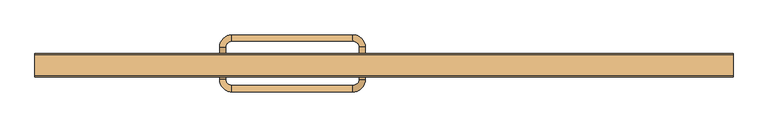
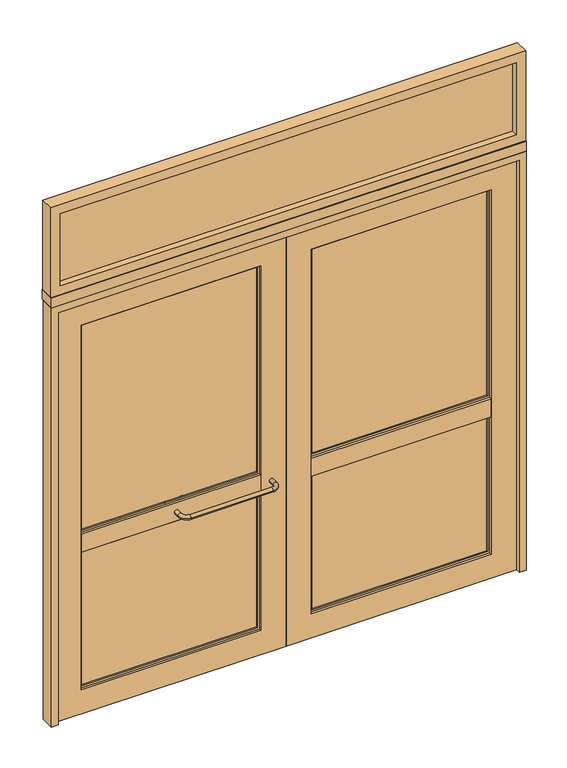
"""IFC4 building model written with IfcOpenShell, lengths in millimetres: door geometry, A1 Puerta batiente doble  VF superior : A1.3 Puerta batiente doble  VF superior 225x260."""

import ifcopenshell
import ifcopenshell.guid

model = None  # the IFC model being written
_history = None  # IfcOwnerHistory: only IFC2X3 demands one
_inside = {}  # id of a spatial element -> (the spatial element, [elements in it])
_under = {}  # id of a project, library or spatial element -> (it, [spatial elements below it])
_declared = {}  # id of a project -> (the project, [libraries it declares])
_typed = {}  # id of a type object -> (the type object, [elements of that type])
_made_of = {}  # id of a material, layer set ... -> (it, [elements and type objects made of it])


def new_model(schema):
    """Start an empty IFC model of exactly this schema.

    Asked for "IFC4X3", IfcOpenShell would pick the latest addendum, in which some entities
    have other attributes; the version numbers below select the first issue.
    IFC2X3 requires an IfcOwnerHistory on every rooted entity: one is made here for all.
    """
    global model, _history
    if schema == "IFC4X3":
        model = ifcopenshell.file(schema_version=(4, 3, 0, 0))
    else:
        model = ifcopenshell.file(schema=schema)
    _inside.clear()
    _under.clear()
    _declared.clear()
    _typed.clear()
    _made_of.clear()
    _history = None
    if model.schema == "IFC2X3":
        org = make("IfcOrganization", Name="unknown")
        user = make(
            "IfcPersonAndOrganization",
            ThePerson=make("IfcPerson", FamilyName="unknown"),
            TheOrganization=org,
        )
        app = make(
            "IfcApplication",
            ApplicationDeveloper=org,
            Version="unknown",
            ApplicationFullName="unknown",
            ApplicationIdentifier="unknown",
        )
        _history = make(
            "IfcOwnerHistory",
            OwningUser=user,
            OwningApplication=app,
            ChangeAction="ADDED",
            CreationDate=0,
        )
    return model


def make(cls, **values):
    """One entity of the class cls with the attributes given. An attribute that is None is left unset."""
    return model.create_entity(
        cls, **{name: value for name, value in values.items() if value is not None}
    )


def rooted(cls, **values):
    """An entity with a GlobalId (a new one), such as an element, a storey or a relation."""
    return make(cls, GlobalId=ifcopenshell.guid.new(), OwnerHistory=_history, **values)


def si_unit(unit_type, name, prefix=None):
    """IfcSIUnit, for example si_unit("LENGTHUNIT", "METRE", prefix="MILLI")."""
    return make("IfcSIUnit", UnitType=unit_type, Prefix=prefix, Name=name)


def assignment(units):
    """IfcUnitAssignment: the units of a project."""
    return None if units is None else make("IfcUnitAssignment", Units=units)


def point(xyz):
    """IfcCartesianPoint."""
    return None if xyz is None else make("IfcCartesianPoint", Coordinates=xyz)


def direction(xyz):
    """IfcDirection."""
    return None if xyz is None else make("IfcDirection", DirectionRatios=xyz)


def frame(location, z_axis=None, x_axis=None):
    """IfcAxis2Placement3D, a coordinate frame: its origin and axes. An axis left out is left unset."""
    return make(
        "IfcAxis2Placement3D",
        Location=point(location),
        Axis=direction(z_axis),
        RefDirection=direction(x_axis),
    )


def origin():
    """The frame at (0, 0, 0) with its axes left unset."""
    return frame((0.0, 0.0, 0.0))


def place(relative_to, where):
    """IfcLocalPlacement: puts the frame where relative to a parent placement (None: the world)."""
    return make(
        "IfcLocalPlacement", PlacementRelTo=relative_to, RelativePlacement=where
    )


def context(
    kind, dimensions, precision=None, world=None, true_north=None, identifier=None
):
    """IfcGeometricRepresentationContext, for example the 3D "Model" context."""
    return make(
        "IfcGeometricRepresentationContext",
        ContextIdentifier=identifier,
        ContextType=kind,
        CoordinateSpaceDimension=dimensions,
        Precision=precision,
        WorldCoordinateSystem=world,
        TrueNorth=true_north,
    )


def project(units=None, contexts=None):
    """IfcProject with its units and contexts."""
    return rooted(
        "IfcProject",
        Name="project",
        RepresentationContexts=contexts,
        UnitsInContext=assignment(units),
    )


def spatial(cls, under=None, at=None, **own):
    """A site, building, storey or space (cls), placed at a placement, below another one or the project."""
    s = rooted(cls, ObjectPlacement=at, **own)
    if under is not None:
        _under.setdefault(under.id(), (under, []))[1].append(s)
    return s


def polyline(points):
    """IfcPolyline through the points."""
    return make("IfcPolyline", Points=[point(p) for p in points])


def circle_curve(where, radius):
    """IfcCircle in the frame where."""
    return make("IfcCircle", Position=where, Radius=radius)


def ellipse_curve(where, semi_axis1, semi_axis2):
    """IfcEllipse in the frame where."""
    return make(
        "IfcEllipse", Position=where, SemiAxis1=semi_axis1, SemiAxis2=semi_axis2
    )


def trimmed(basis, trim1, trim2, sense, master):
    """IfcTrimmedCurve: the piece of a basis curve between two trims."""
    return make(
        "IfcTrimmedCurve",
        BasisCurve=basis,
        Trim1=trim1,
        Trim2=trim2,
        SenseAgreement=sense,
        MasterRepresentation=master,
    )


def outline(outer, holes=None, kind="AREA"):
    """IfcArbitraryClosedProfileDef: a profile drawn as a closed curve; with holes, ...WithVoids."""
    if holes is None:
        return make("IfcArbitraryClosedProfileDef", ProfileType=kind, OuterCurve=outer)
    return make(
        "IfcArbitraryProfileDefWithVoids",
        ProfileType=kind,
        OuterCurve=outer,
        InnerCurves=holes,
    )


def extrude(swept, where, along, depth):
    """IfcExtrudedAreaSolid: the profile swept, set in the frame where, extruded along a direction by depth."""
    return make(
        "IfcExtrudedAreaSolid",
        SweptArea=swept,
        Position=where,
        ExtrudedDirection=direction(along),
        Depth=depth,
    )


def shape(context_of_items, identifier, shape_type, items):
    """IfcShapeRepresentation: the items that make up one representation, for example the "Body"."""
    return make(
        "IfcShapeRepresentation",
        ContextOfItems=context_of_items,
        RepresentationIdentifier=identifier,
        RepresentationType=shape_type,
        Items=items,
    )


def source(mapping_origin, context_of_items, identifier, shape_type, items):
    """IfcRepresentationMap: a shape defined once, which mapped items show again and again."""
    return make(
        "IfcRepresentationMap",
        MappingOrigin=mapping_origin,
        MappedRepresentation=shape(context_of_items, identifier, shape_type, items),
    )


def transform(
    local_origin,
    x_axis=None,
    y_axis=None,
    z_axis=None,
    scale=None,
    scale2=None,
    scale3=None,
    uniform=True,
):
    """IfcCartesianTransformationOperator3D, or its non-uniform kind. x_axis, y_axis, z_axis: its Axis1, 2, 3."""
    if uniform:
        return make(
            "IfcCartesianTransformationOperator3D",
            Axis1=direction(x_axis),
            Axis2=direction(y_axis),
            LocalOrigin=point(local_origin),
            Scale=scale,
            Axis3=direction(z_axis),
        )
    return make(
        "IfcCartesianTransformationOperator3DnonUniform",
        Axis1=direction(x_axis),
        Axis2=direction(y_axis),
        LocalOrigin=point(local_origin),
        Scale=scale,
        Axis3=direction(z_axis),
        Scale2=scale2,
        Scale3=scale3,
    )


def mapped(mapping_source, mapping_target):
    """IfcMappedItem: shows the shape of a source again, moved by a transform."""
    return make(
        "IfcMappedItem", MappingSource=mapping_source, MappingTarget=mapping_target
    )


def made_of(thing, what):
    """Note that an element or type object is made of a material, layer set ...; save() writes the relation."""
    if what is not None:
        _made_of.setdefault(what.id(), (what, []))[1].append(thing)
    return thing


def element(
    cls,
    number,
    at=None,
    inside=None,
    cuts=None,
    type_object=None,
    material=None,
    context=None,
    identifier="Body",
    shape_type=None,
    held_by="IfcProductDefinitionShape",
    body=None,
    shapes=None,
    **own,
):
    """One element of the class cls, such as IfcWall. Its Tag is "e" and its number.

    at: its placement. inside: the storey or other place that contains it. cuts: it is an
    opening in that element (IfcRelVoidsElement). A single representation is given by context,
    identifier, shape_type and body (its items); several are given by shapes. held_by: the class
    of the entity that holds the representations. save() writes the other relations.
    """
    e = rooted(cls, Tag="e%d" % number, ObjectPlacement=at, **own)
    if body is not None:
        shapes = [shape(context, identifier, shape_type, body)]
    if shapes is not None:
        e.Representation = make(held_by, Representations=shapes)
    if inside is not None:
        _inside.setdefault(inside.id(), (inside, []))[1].append(e)
    if cuts is not None:
        rooted(
            "IfcRelVoidsElement", RelatingBuildingElement=cuts, RelatedOpeningElement=e
        )
    if type_object is not None:
        _typed.setdefault(type_object.id(), (type_object, []))[1].append(e)
    return made_of(e, material)


def aggregate(whole, parts):
    """IfcRelAggregates: a whole, such as a stair, and the parts it consists of."""
    return rooted("IfcRelAggregates", RelatingObject=whole, RelatedObjects=parts)


def save(model, path):
    """Write the relations noted so far, then the file.

    IfcRelAggregates (storeys below a building ...), IfcRelContainedInSpatialStructure (elements
    in a storey), IfcRelDefinesByType, IfcRelAssociatesMaterial and IfcRelDeclares: one each for
    every whole, place, type object, material and project.
    """
    for whole, parts in _under.values():
        aggregate(whole, parts)
    for where, things in _inside.values():
        rooted(
            "IfcRelContainedInSpatialStructure",
            RelatedElements=things,
            RelatingStructure=where,
        )
    for kind, things in _typed.values():
        rooted("IfcRelDefinesByType", RelatedObjects=things, RelatingType=kind)
    for what, things in _made_of.values():
        rooted("IfcRelAssociatesMaterial", RelatedObjects=things, RelatingMaterial=what)
    for by, libraries in _declared.values():
        rooted("IfcRelDeclares", RelatingContext=by, RelatedDefinitions=libraries)
    model.write(path)


def plane_surface(at):
    """IfcPlane: the flat surface through the origin of the frame at, square to its z axis."""
    return make("IfcPlane", Position=at)


def cylinder_surface(at, radius):
    """IfcCylindricalSurface: all points at the distance radius from the z axis of the frame at."""
    return make("IfcCylindricalSurface", Position=at, Radius=radius)


def revolved_surface(curve, axis_point, axis_direction):
    """IfcSurfaceOfRevolution: the curve turned about the line through axis_point along axis_direction."""
    return make(
        "IfcSurfaceOfRevolution",
        SweptCurve=make("IfcArbitraryOpenProfileDef", ProfileType="CURVE", Curve=curve),
        AxisPosition=make("IfcAxis1Placement", Location=point(axis_point), Axis=direction(axis_direction)),
    )


def advanced_brep(points, edges, surfaces, faces):
    """IfcAdvancedBrep: a solid bounded by faces that lie on surfaces and meet in shared edges.

    An edge is (start, end): straight between two places in points (the first is 0);
    or (start, end, curve); or (start, end, curve, False) where it runs against its curve.
    A face is (place in surfaces, loops), or (place, loops, False) where it looks against
    its surface's normal. A loop lists edges by number (the first is 1), with a minus sign
    where the edge is run from its end to its start. The first loop is the outer one.
    """
    corners = [point(p) for p in points]
    vertices = [make("IfcVertexPoint", VertexGeometry=c) for c in corners]
    made = []
    for start, end, *more in edges:
        made.append(
            make(
                "IfcEdgeCurve",
                EdgeStart=vertices[start],
                EdgeEnd=vertices[end],
                EdgeGeometry=more[0] if more else make("IfcPolyline", Points=[corners[start], corners[end]]),
                SameSense=more[1] if len(more) > 1 else True,
            )
        )
    hull = []
    for where, loops, *sense in faces:
        bounds = []
        for j, loop in enumerate(loops):
            ring = [make("IfcOrientedEdge", EdgeElement=made[abs(k) - 1], Orientation=k > 0) for k in loop]
            bounds.append(
                make(
                    "IfcFaceOuterBound" if j == 0 else "IfcFaceBound",
                    Bound=make("IfcEdgeLoop", EdgeList=ring),
                    Orientation=True,
                )
            )
        hull.append(make("IfcAdvancedFace", Bounds=bounds, FaceSurface=surfaces[where], SameSense=sense[0] if sense else True))
    return make("IfcAdvancedBrep", Outer=make("IfcClosedShell", CfsFaces=hull))


def door_28f023a7(model_context):
    return source(origin(), model_context, "Body", "SolidModel", [
        advanced_brep(
        [(-80.0, -133.0, 855.0), (-60.0, -133.0, 855.0), (-60.0, -163.0, 855.0), (-80.0, -163.0, 855.0), (-100.0, -183.0, 855.0), (-100.0, -203.0, 855.0), (-490.0, -203.0, 855.0), (-490.0, -183.0, 855.0), (-510.0, -163.0, 855.0), (-530.0, -163.0, 855.0), (-510.0, -133.0, 855.0), (-530.0, -133.0, 855.0)],
        [
            (0, 1, circle_curve(frame((-70.0, -133.0, 855.0), z_axis=(0.0, 1.0, 0.0), x_axis=(1.0, 0.0, 0.0)), 10.0)),
            (1, 0, circle_curve(frame((-70.0, -133.0, 855.0), z_axis=(0.0, 1.0, 0.0), x_axis=(1.0, 0.0, 0.0)), 10.0)),
            (1, 2),
            (2, 3, circle_curve(frame((-70.0, -163.0, 855.0), z_axis=(0.0, 1.0, 0.0), x_axis=(1.0, 0.0, 0.0)), 10.0)),
            (3, 0),
            (3, 2, circle_curve(frame((-70.0, -163.0, 855.0), z_axis=(0.0, 1.0, 0.0), x_axis=(1.0, 0.0, 0.0)), 10.0)),
            (4, 3, circle_curve(frame((-100.0, -163.0, 855.0), z_axis=(0.0, 0.0, 1.0), x_axis=(1.0, 0.0, 0.0)), 20.0)),
            (2, 5, circle_curve(frame((-100.0, -163.0, 855.0), z_axis=(0.0, 0.0, -1.0), x_axis=(1.0, 0.0, 0.0)), 40.0)),
            (5, 4, circle_curve(frame((-100.0, -193.0, 855.0), z_axis=(1.0, 0.0, 0.0), x_axis=(0.0, -1.0, 0.0)), 10.0)),
            (4, 5, circle_curve(frame((-100.0, -193.0, 855.0), z_axis=(1.0, 0.0, 0.0), x_axis=(0.0, -1.0, 0.0)), 10.0)),
            (5, 6),
            (6, 7, circle_curve(frame((-490.0, -193.0, 855.0), z_axis=(1.0, 0.0, 0.0), x_axis=(0.0, -1.0, 0.0)), 10.0)),
            (7, 4),
            (7, 6, circle_curve(frame((-490.0, -193.0, 855.0), z_axis=(1.0, 0.0, 0.0), x_axis=(0.0, -1.0, 0.0)), 10.0)),
            (8, 7, circle_curve(frame((-490.0, -163.0, 855.0), z_axis=(0.0, 0.0, 1.0), x_axis=(0.0, -1.0, 0.0)), 20.0)),
            (6, 9, circle_curve(frame((-490.0, -163.0, 855.0), z_axis=(0.0, 0.0, -1.0), x_axis=(0.0, -1.0, 0.0)), 40.0)),
            (9, 8, circle_curve(frame((-520.0, -163.0, 855.0), z_axis=(0.0, -1.0, 0.0), x_axis=(-1.0, 0.0, 0.0)), 10.0)),
            (8, 9, circle_curve(frame((-520.0, -163.0, 855.0), z_axis=(0.0, -1.0, 0.0), x_axis=(-1.0, 0.0, 0.0)), 10.0)),
            (10, 11, circle_curve(frame((-520.0, -133.0, 855.0), z_axis=(0.0, 1.0, 0.0), x_axis=(-1.0, 0.0, 0.0)), 10.0)),
            (11, 10, circle_curve(frame((-520.0, -133.0, 855.0), z_axis=(0.0, 1.0, 0.0), x_axis=(-1.0, 0.0, 0.0)), 10.0)),
            (9, 11),
            (10, 8),
        ],
        [
            plane_surface(frame((-70.0, -133.0, 855.0), z_axis=(0.0, 1.0, 0.0), x_axis=(0.0, 0.0, 1.0))),
            cylinder_surface(frame((-70.0, -133.0, 855.0), z_axis=(0.0, 1.0, 0.0), x_axis=(1.0, 0.0, 0.0)), 10.0),
            revolved_surface(trimmed(ellipse_curve(frame((-70.0, -163.0, 855.0), z_axis=(0.0, 1.0, 0.0), x_axis=(1.0, 0.0, 0.0)), 10.0, 10.0), [point((-60.0, -163.0, 855.0))], [point((-80.0, -163.0, 855.0))], True, "CARTESIAN"), (-100.0, -163.0, 855.0), (0.0, 0.0, -1.0)),
            revolved_surface(trimmed(ellipse_curve(frame((-70.0, -163.0, 855.0), z_axis=(0.0, 1.0, 0.0), x_axis=(1.0, 0.0, 0.0)), 10.0, 10.0), [point((-80.0, -163.0, 855.0))], [point((-60.0, -163.0, 855.0))], True, "CARTESIAN"), (-100.0, -163.0, 855.0), (0.0, 0.0, -1.0)),
            cylinder_surface(frame((-100.0, -193.0, 855.0), z_axis=(1.0, 0.0, 0.0), x_axis=(0.0, -1.0, 0.0)), 10.0),
            revolved_surface(trimmed(ellipse_curve(frame((-490.0, -193.0, 855.0), z_axis=(1.0, 0.0, 0.0), x_axis=(0.0, -1.0, 0.0)), 10.0, 10.0), [point((-490.0, -203.0, 855.0))], [point((-490.0, -183.0, 855.0))], True, "CARTESIAN"), (-490.0, -163.0, 855.0), (0.0, 0.0, -1.0)),
            revolved_surface(trimmed(ellipse_curve(frame((-490.0, -193.0, 855.0), z_axis=(1.0, 0.0, 0.0), x_axis=(0.0, -1.0, 0.0)), 10.0, 10.0), [point((-490.0, -183.0, 855.0))], [point((-490.0, -203.0, 855.0))], True, "CARTESIAN"), (-490.0, -163.0, 855.0), (0.0, 0.0, -1.0)),
            plane_surface(frame((-520.0, -133.0, 855.0), z_axis=(0.0, 1.0, 0.0), x_axis=(0.0, 0.0, 1.0))),
            cylinder_surface(frame((-520.0, -163.0, 855.0), z_axis=(0.0, -1.0, 0.0), x_axis=(-1.0, 0.0, 0.0)), 10.0),
        ],
        [
            (0, [[1, 2]]),
            (1, [[-2, 3, 4, 5]]),
            (1, [[-1, -5, 6, -3]]),
            (2, [[7, -4, 8, 9]]),
            (3, [[-8, -6, -7, 10]]),
            (4, [[-9, 11, 12, 13]]),
            (4, [[-10, -13, 14, -11]]),
            (5, [[15, -12, 16, 17]]),
            (6, [[-16, -14, -15, 18]]),
            (7, [[19, 20]]),
            (8, [[-17, 21, -19, 22]]),
            (8, [[-18, -22, -20, -21]]),
        ],
    ),
        advanced_brep(
        [(-60.0, -89.0, 855.0), (-80.0, -89.0, 855.0), (-60.0, -59.0, 855.0), (-80.0, -59.0, 855.0), (-100.0, -39.0, 855.0), (-100.0, -19.0, 855.0), (-490.0, -19.0, 855.0), (-490.0, -39.0, 855.0), (-510.0, -59.0, 855.0), (-530.0, -59.0, 855.0), (-530.0, -89.0, 855.0), (-510.0, -89.0, 855.0)],
        [
            (0, 1, circle_curve(frame((-70.0, -89.0, 855.0), z_axis=(0.0, -1.0, 0.0), x_axis=(-1.0, 0.0, 0.0)), 10.0)),
            (1, 0, circle_curve(frame((-70.0, -89.0, 855.0), z_axis=(0.0, -1.0, 0.0), x_axis=(-1.0, 0.0, 0.0)), 10.0)),
            (0, 2),
            (2, 3, circle_curve(frame((-70.0, -59.0, 855.0), z_axis=(0.0, -1.0, 0.0), x_axis=(-1.0, 0.0, 0.0)), 10.0)),
            (3, 1),
            (3, 2, circle_curve(frame((-70.0, -59.0, 855.0), z_axis=(0.0, -1.0, 0.0), x_axis=(-1.0, 0.0, 0.0)), 10.0)),
            (4, 3, circle_curve(frame((-100.0, -59.0, 855.0), z_axis=(0.0, 0.0, -1.0), x_axis=(1.0, 0.0, 0.0)), 20.0)),
            (2, 5, circle_curve(frame((-100.0, -59.0, 855.0), z_axis=(0.0, 0.0, 1.0), x_axis=(1.0, 0.0, 0.0)), 40.0)),
            (5, 4, circle_curve(frame((-100.0, -29.0, 855.0), z_axis=(1.0, 0.0, 0.0), x_axis=(0.0, -1.0, 0.0)), 10.0)),
            (4, 5, circle_curve(frame((-100.0, -29.0, 855.0), z_axis=(1.0, 0.0, 0.0), x_axis=(0.0, -1.0, 0.0)), 10.0)),
            (5, 6),
            (6, 7, circle_curve(frame((-490.0, -29.0, 855.0), z_axis=(1.0, 0.0, 0.0), x_axis=(0.0, -1.0, 0.0)), 10.0)),
            (7, 4),
            (7, 6, circle_curve(frame((-490.0, -29.0, 855.0), z_axis=(1.0, 0.0, 0.0), x_axis=(0.0, -1.0, 0.0)), 10.0)),
            (8, 7, circle_curve(frame((-490.0, -59.0, 855.0), z_axis=(0.0, 0.0, -1.0), x_axis=(0.0, 1.0, 0.0)), 20.0)),
            (6, 9, circle_curve(frame((-490.0, -59.0, 855.0), z_axis=(0.0, 0.0, 1.0), x_axis=(0.0, 1.0, 0.0)), 40.0)),
            (9, 8, circle_curve(frame((-520.0, -59.0, 855.0), z_axis=(0.0, 1.0, 0.0), x_axis=(1.0, 0.0, 0.0)), 10.0)),
            (8, 9, circle_curve(frame((-520.0, -59.0, 855.0), z_axis=(0.0, 1.0, 0.0), x_axis=(1.0, 0.0, 0.0)), 10.0)),
            (10, 11, circle_curve(frame((-520.0, -89.0, 855.0), z_axis=(0.0, -1.0, 0.0), x_axis=(1.0, 0.0, 0.0)), 10.0)),
            (11, 10, circle_curve(frame((-520.0, -89.0, 855.0), z_axis=(0.0, -1.0, 0.0), x_axis=(1.0, 0.0, 0.0)), 10.0)),
            (9, 10),
            (11, 8),
        ],
        [
            plane_surface(frame((-70.0, -89.0, 855.0), z_axis=(0.0, -1.0, 0.0), x_axis=(0.0, 0.0, 1.0))),
            cylinder_surface(frame((-70.0, -89.0, 855.0), z_axis=(0.0, -1.0, 0.0), x_axis=(-1.0, 0.0, 0.0)), 10.0),
            revolved_surface(trimmed(ellipse_curve(frame((-70.0, -59.0, 855.0), z_axis=(0.0, -1.0, 0.0), x_axis=(-1.0, 0.0, 0.0)), 10.0, 10.0), [point((-60.0, -59.0, 855.0))], [point((-80.0, -59.0, 855.0))], True, "CARTESIAN"), (-100.0, -59.0, 855.0), (0.0, 0.0, 1.0)),
            revolved_surface(trimmed(ellipse_curve(frame((-70.0, -59.0, 855.0), z_axis=(0.0, -1.0, 0.0), x_axis=(-1.0, 0.0, 0.0)), 10.0, 10.0), [point((-80.0, -59.0, 855.0))], [point((-60.0, -59.0, 855.0))], True, "CARTESIAN"), (-100.0, -59.0, 855.0), (0.0, 0.0, 1.0)),
            cylinder_surface(frame((-100.0, -29.0, 855.0), z_axis=(1.0, 0.0, 0.0), x_axis=(0.0, -1.0, 0.0)), 10.0),
            revolved_surface(trimmed(ellipse_curve(frame((-490.0, -29.0, 855.0), z_axis=(1.0, 0.0, 0.0), x_axis=(0.0, -1.0, 0.0)), 10.0, 10.0), [point((-490.0, -19.0, 855.0))], [point((-490.0, -39.0, 855.0))], True, "CARTESIAN"), (-490.0, -59.0, 855.0), (0.0, 0.0, 1.0)),
            revolved_surface(trimmed(ellipse_curve(frame((-490.0, -29.0, 855.0), z_axis=(1.0, 0.0, 0.0), x_axis=(0.0, -1.0, 0.0)), 10.0, 10.0), [point((-490.0, -39.0, 855.0))], [point((-490.0, -19.0, 855.0))], True, "CARTESIAN"), (-490.0, -59.0, 855.0), (0.0, 0.0, 1.0)),
            plane_surface(frame((-520.0, -89.0, 855.0), z_axis=(0.0, -1.0, 0.0), x_axis=(0.0, 0.0, 1.0))),
            cylinder_surface(frame((-520.0, -59.0, 855.0), z_axis=(0.0, 1.0, 0.0), x_axis=(1.0, 0.0, 0.0)), 10.0),
        ],
        [
            (0, [[1, 2]]),
            (1, [[-1, 3, 4, 5]]),
            (1, [[-2, -5, 6, -3]]),
            (2, [[7, -4, 8, 9]]),
            (3, [[-8, -6, -7, 10]]),
            (4, [[-9, 11, 12, 13]]),
            (4, [[-10, -13, 14, -11]]),
            (5, [[15, -12, 16, 17]]),
            (6, [[-16, -14, -15, 18]]),
            (7, [[19, 20]]),
            (8, [[-17, 21, -20, 22]]),
            (8, [[-18, -22, -19, -21]]),
        ],
    ),
        extrude(outline(polyline([(1080.0, -120.5), (-1080.0, -120.5), (-1080.0, -114.5), (1080.0, -114.5), (1080.0, -120.5)])), frame((0.0, 0.0, 2195.0), z_axis=(0.0, 0.0, 1.0), x_axis=(1.0, 0.0, 0.0)), (0.0, 0.0, 1.0), 360.0),
        extrude(outline(polyline([(2600.0, -1125.0), (2150.0, -1125.0), (2150.0, 1125.0), (2600.0, 1125.0), (2600.0, -1125.0)]), holes=[polyline([(2555.0, -1080.0), (2555.0, 1080.0), (2195.0, 1080.0), (2195.0, -1080.0), (2555.0, -1080.0)])]), frame((0.0, -150.5, 0.0), z_axis=(0.0, 1.0, 0.0), x_axis=(0.0, 0.0, 1.0)), (0.0, 0.0, 1.0), 66.0),
        extrude(outline(polyline([(-130.0, -114.0), (-962.0, -114.0), (-962.0, -108.0), (-130.0, -108.0), (-130.0, -114.0)])), frame((0.0, 0.0, 910.0), z_axis=(0.0, 0.0, 1.0), x_axis=(1.0, 0.0, 0.0)), (0.0, 0.0, 1.0), 1027.0),
        extrude(outline(polyline([(-130.0, -114.0), (-962.0, -114.0), (-962.0, -108.0), (-130.0, -108.0), (-130.0, -114.0)])), frame((0.0, 0.0, 130.0), z_axis=(0.0, 0.0, 1.0), x_axis=(1.0, 0.0, 0.0)), (0.0, 0.0, 1.0), 670.0),
        extrude(outline(polyline([(1947.0, -972.0), (900.0, -972.0), (900.0, -120.0), (1947.0, -120.0), (1947.0, -972.0)]), holes=[polyline([(1937.0, -962.0), (1937.0, -130.0), (910.0, -130.0), (910.0, -962.0), (1937.0, -962.0)])]), frame((0.0, -121.0, 0.0), z_axis=(0.0, 1.0, 0.0), x_axis=(0.0, 0.0, 1.0)), (0.0, 0.0, 1.0), 20.0),
        extrude(outline(polyline([(810.0, -972.0), (120.0, -972.0), (120.0, -120.0), (810.0, -120.0), (810.0, -972.0)]), holes=[polyline([(800.0, -962.0), (800.0, -130.0), (130.0, -130.0), (130.0, -962.0), (800.0, -962.0)])]), frame((0.0, -121.0, 0.0), z_axis=(0.0, 1.0, 0.0), x_axis=(0.0, 0.0, 1.0)), (0.0, 0.0, 1.0), 20.0),
        extrude(outline(polyline([(-120.0, -133.0), (-972.0, -133.0), (-972.0, -89.0), (-120.0, -89.0), (-120.0, -133.0)])), frame((0.0, 0.0, 810.0), z_axis=(0.0, 0.0, 1.0), x_axis=(1.0, 0.0, 0.0)), (0.0, 0.0, 1.0), 90.0),
        extrude(outline(polyline([(2067.0, -1092.0), (0.0, -1092.0), (0.0, 0.0), (2067.0, 0.0), (2067.0, -1092.0)]), holes=[polyline([(1947.0, -972.0), (1947.0, -120.0), (120.0, -120.0), (120.0, -972.0), (1947.0, -972.0)])]), frame((0.0, -133.0, 0.0), z_axis=(0.0, 1.0, 0.0), x_axis=(0.0, 0.0, 1.0)), (0.0, 0.0, 1.0), 44.0),
        extrude(outline(polyline([(962.0, -114.0), (130.0, -114.0), (130.0, -108.0), (962.0, -108.0), (962.0, -114.0)])), frame((0.0, 0.0, 910.0), z_axis=(0.0, 0.0, 1.0), x_axis=(1.0, 0.0, 0.0)), (0.0, 0.0, 1.0), 1027.0),
        extrude(outline(polyline([(962.0, -114.0), (130.0, -114.0), (130.0, -108.0), (962.0, -108.0), (962.0, -114.0)])), frame((0.0, 0.0, 130.0), z_axis=(0.0, 0.0, 1.0), x_axis=(1.0, 0.0, 0.0)), (0.0, 0.0, 1.0), 670.0),
        extrude(outline(polyline([(1947.0, 120.0), (900.0, 120.0), (900.0, 972.0), (1947.0, 972.0), (1947.0, 120.0)]), holes=[polyline([(1937.0, 130.0), (1937.0, 962.0), (910.0, 962.0), (910.0, 130.0), (1937.0, 130.0)])]), frame((0.0, -121.0, 0.0), z_axis=(0.0, 1.0, 0.0), x_axis=(0.0, 0.0, 1.0)), (0.0, 0.0, 1.0), 20.0),
        extrude(outline(polyline([(810.0, 120.0), (120.0, 120.0), (120.0, 972.0), (810.0, 972.0), (810.0, 120.0)]), holes=[polyline([(800.0, 130.0), (800.0, 962.0), (130.0, 962.0), (130.0, 130.0), (800.0, 130.0)])]), frame((0.0, -121.0, 0.0), z_axis=(0.0, 1.0, 0.0), x_axis=(0.0, 0.0, 1.0)), (0.0, 0.0, 1.0), 20.0),
        extrude(outline(polyline([(972.0, -133.0), (120.0, -133.0), (120.0, -89.0), (972.0, -89.0), (972.0, -133.0)])), frame((0.0, 0.0, 810.0), z_axis=(0.0, 0.0, 1.0), x_axis=(1.0, 0.0, 0.0)), (0.0, 0.0, 1.0), 90.0),
        extrude(outline(polyline([(2067.0, 0.0), (0.0, 0.0), (0.0, 1092.0), (2067.0, 1092.0), (2067.0, 0.0)]), holes=[polyline([(1947.0, 120.0), (1947.0, 972.0), (120.0, 972.0), (120.0, 120.0), (1947.0, 120.0)])]), frame((0.0, -133.0, 0.0), z_axis=(0.0, 1.0, 0.0), x_axis=(0.0, 0.0, 1.0)), (0.0, 0.0, 1.0), 44.0),
        extrude(outline(polyline([(2100.0, 1125.0), (2100.0, -1125.0), (0.0, -1125.0), (0.0, -1092.0), (2067.0, -1092.0), (2067.0, 1092.0), (0.0, 1092.0), (0.0, 1125.0), (2100.0, 1125.0)])), frame((0.0, -155.0, 0.0), z_axis=(0.0, 1.0, 0.0), x_axis=(0.0, 0.0, 1.0)), (0.0, 0.0, 1.0), 66.0),
        extrude(outline(polyline([(1125.0, -155.0), (-1125.0, -155.0), (-1125.0, -80.0), (1125.0, -80.0), (1125.0, -155.0)])), frame((0.0, 0.0, 2100.0), z_axis=(0.0, 0.0, 1.0), x_axis=(1.0, 0.0, 0.0)), (0.0, 0.0, 1.0), 50.0),
    ])


if __name__ == "__main__":
    model = new_model("IFC4")
    model_context = context("Model", 3, world=origin())
    ifc_project = project(units=[si_unit("LENGTHUNIT", "METRE", prefix="MILLI")], contexts=[model_context])
    site = spatial("IfcSite", under=ifc_project)
    building = spatial("IfcBuilding", under=site)
    placement = place(None, origin())
    door_shape = door_28f023a7(model_context)
    element("IfcDoor", 1, ObjectType="A1 Puerta batiente doble  VF superior : A1.3 Puerta batiente doble  VF superior 225x260", at=placement, inside=building, context=model_context, shape_type="MappedRepresentation", body=[
        mapped(door_shape, transform((0.0, 0.0, 0.0), x_axis=(1.0, 0.0, 0.0), y_axis=(0.0, 1.0, 0.0), z_axis=(0.0, 0.0, 1.0))),
    ])
    save(model, "model.ifc")
